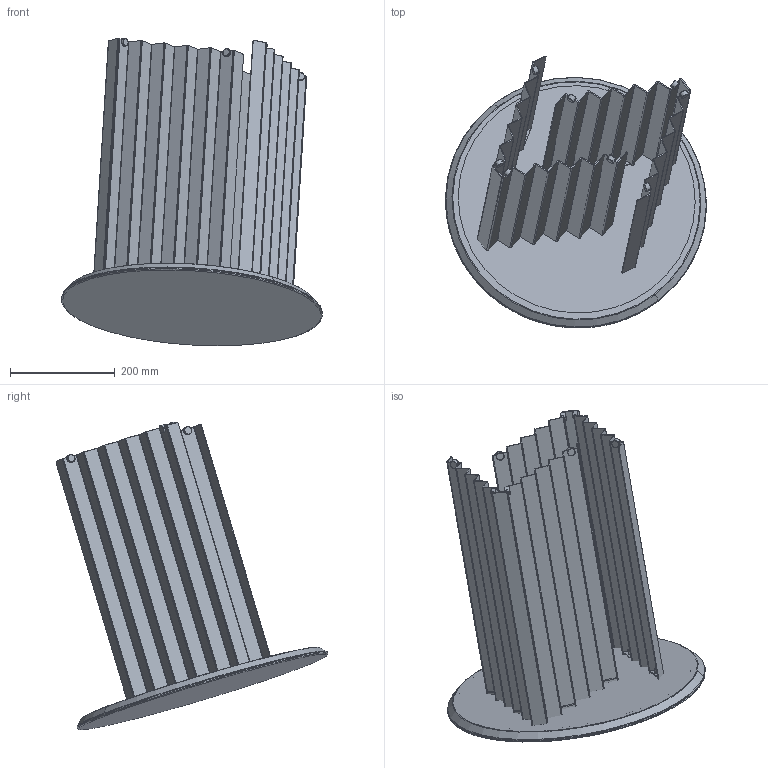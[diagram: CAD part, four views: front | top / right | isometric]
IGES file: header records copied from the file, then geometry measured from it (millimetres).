
Start section: START RECORD GO HERE.
Global section: file name: Plec_round_small_marble.igs; native system: DASSAULT SYSTEMES CATIA Version 5-6 Release 2017 - www.3ds.com; preprocessor: V5-6R2017_5.27.0.0.10-19-2016.20.00; author: RAFA; organization: RAFA-PC; date: 20210305.140648; units: millimetre
Bounding box: 499.19 x 519.67 x 588.51 mm (x, y, z)
Surface area: 2111865.7 mm2 (no closed solid volume)
Topology: 0 solids, 0 shells, 716 faces, 2992 edges, 2992 vertices
Faces by surface type: plane 436, revolution 280
